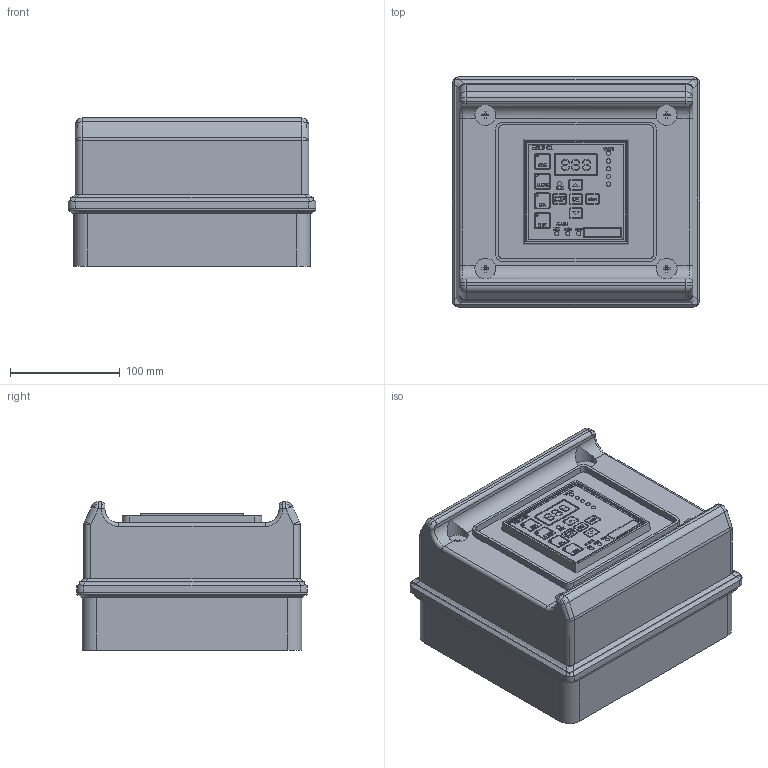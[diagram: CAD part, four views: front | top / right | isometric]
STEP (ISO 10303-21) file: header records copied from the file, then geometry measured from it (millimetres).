
FILE_DESCRIPTION((''),'2;1');
FILE_NAME('R:\Mekanisk design\HBLT-C1\5. STEP files\HBLT-C1-ENC-NO-COVER.stp','2013-02-01T10:45:01',('svj'),(''),'Autodesk Inventor 2013','Autodesk Inventor 2013','');
FILE_SCHEMA(('AUTOMOTIVE_DESIGN { 1 0 10303 214 1 1 1 1 }'));
Length unit declared in the file: inch
Products named in the file (6): HBLT-C1-ENC-STEP; HBLT-C1-ENC-UDEN-COVER; Controller Front Face; Controller Back Face; HBLT-C1; Controller Screw
Assembly tree (8 placements, depth 3):
  HBLT-C1-ENC-STEP
    HBLT-C1-ENC-UDEN-COVER
      Controller Front Face
      Controller Back Face
      HBLT-C1
      Controller Screw  x4
Bounding box: 225.43 x 209.55 x 134.94 mm (x, y, z)
Volume: 729850.3 mm3; surface area: 565255.7 mm2
Topology: 7 solids, 8 shells, 1610 faces, 4155 edges, 2714 vertices
Faces by surface type: plane 1064, cylinder 312, bspline 214, torus 8, sphere 8, cone 4
Full cylindrical faces by diameter (mm): 2 x4, 4 x9, 6.35 x4, 11.43 x4, 18.999 x4, 19.05 x8, 24.13 x8
Entity records: 49478 total; most frequent: CARTESIAN_POINT 11374, ORIENTED_EDGE 7896, DIRECTION 6748, EDGE_CURVE 3948, VECTOR 2934, LINE 2934, VERTEX_POINT 2625, AXIS2_PLACEMENT_3D 1907
